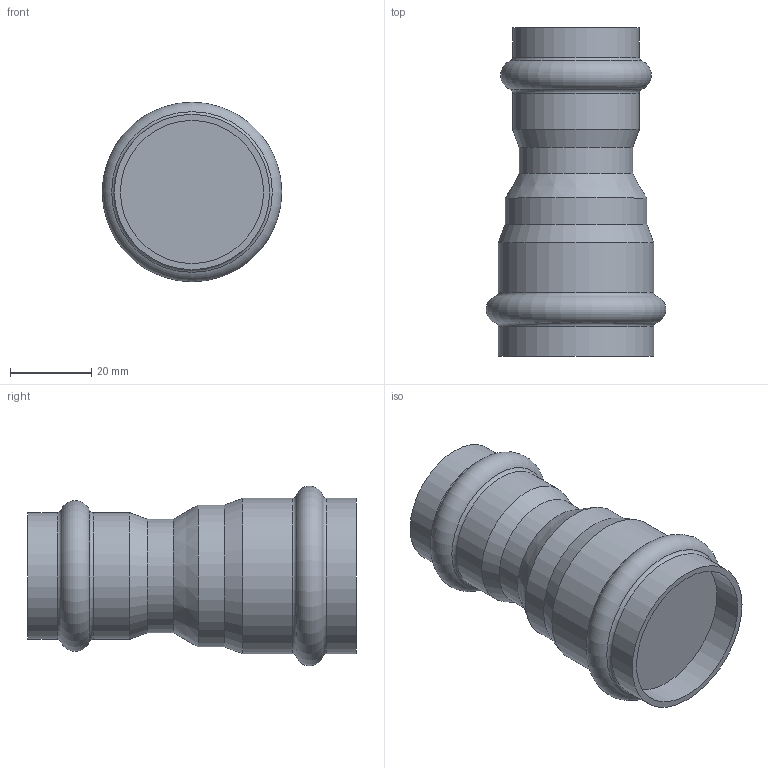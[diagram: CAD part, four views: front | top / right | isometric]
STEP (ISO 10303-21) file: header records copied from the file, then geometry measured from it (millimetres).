
FILE_DESCRIPTION(('STEP AP203'), '1');
FILE_NAME('VTi.903.I.003528', '', ('UNSPECIFIED'), ('UNSPECIFIED'), 'C3D Converter', 'C3D Toolkit', '');
FILE_SCHEMA(('CONFIG_CONTROL_DESIGN'));
Length unit declared in the file: millimetre
Bounding box: 44.3 x 81 x 44.3 mm (x, y, z)
Volume: 66347.7 mm3; surface area: 12955.7 mm2
Topology: 1 solids, 1 shells, 21 faces, 37 edges, 20 vertices
Faces by surface type: cylinder 8, torus 6, plane 4, cone 3
Full cylindrical faces by diameter (mm): 28 x1, 28.3 x1, 31.26 x2, 35 x1, 35.3 x1, 38.3 x2
Entity records: 454 total; most frequent: DIRECTION 84, CARTESIAN_POINT 62, AXIS2_PLACEMENT_3D 42, EDGE_LOOP 40, ORIENTED_EDGE 40, FACE_OUTER_BOUND 34, ADVANCED_FACE 21, EDGE_CURVE 20
